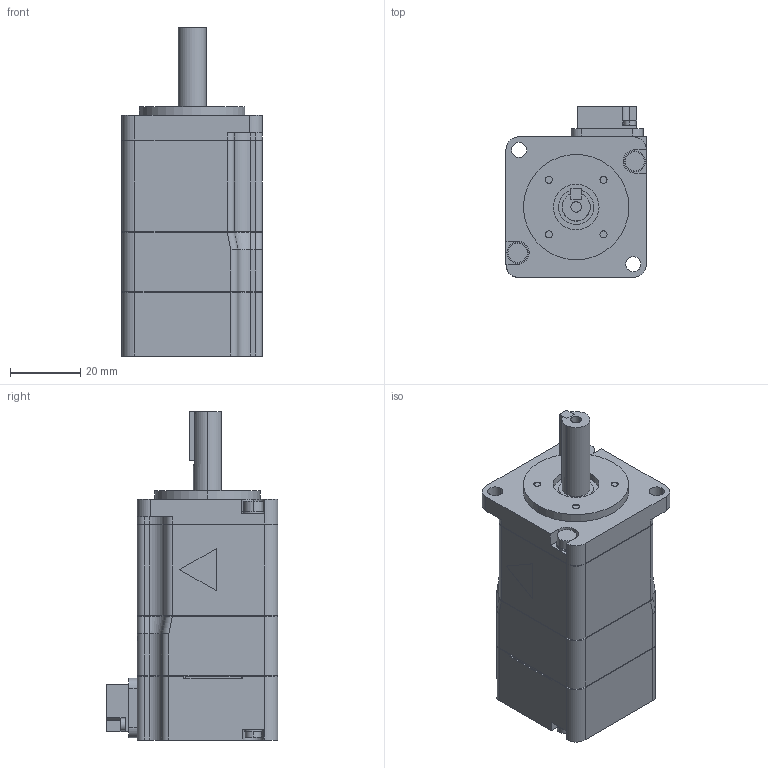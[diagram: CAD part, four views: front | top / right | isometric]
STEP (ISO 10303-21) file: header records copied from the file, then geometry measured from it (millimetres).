
FILE_DESCRIPTION (( 'STEP AP203' ), '1' );
FILE_NAME ('sgm7a_01a_a61.STEP', '2015-12-21T22:34:14', ( '匠エンジニアリング山之内' ), ( 'TAKUMI-Engniaring' ), 'SwSTEP 2.0', 'SolidWorks 2006303', '' );
FILE_SCHEMA (( 'CONFIG_CONTROL_DESIGN' ));
Length unit declared in the file: millimetre
Products named in the file (3): sgm7a_01a_a61_base; sgm7a_01a_a61_key; sgm7a_01a_a61
Assembly tree (2 placements, depth 2):
  sgm7a_01a_a61
    sgm7a_01a_a61_base
    sgm7a_01a_a61_key
Bounding box: 40.1 x 48.8 x 93.6 mm (x, y, z)
Volume: 105483.6 mm3; surface area: 17466.7 mm2
Topology: 2 solids, 2 shells, 320 faces, 813 edges, 536 vertices
Faces by surface type: plane 188, cylinder 126, bspline 6
Entity records: 10029 total; most frequent: CARTESIAN_POINT 1752, DIRECTION 1704, ORIENTED_EDGE 1626, EDGE_CURVE 813, AXIS2_PLACEMENT_3D 576, VECTOR 552, LINE 552, VERTEX_POINT 536
